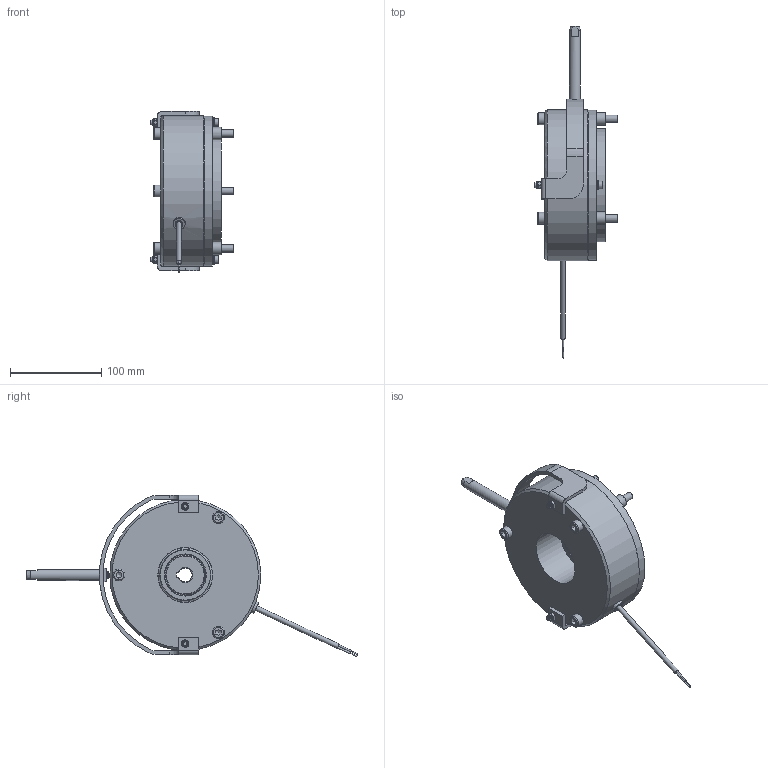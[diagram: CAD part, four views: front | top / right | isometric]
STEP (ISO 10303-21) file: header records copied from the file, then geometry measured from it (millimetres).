
FILE_DESCRIPTION(/* description */ (''),/* implementation_level */ '2;1');
FILE_NAME(/* name */ 'C:\SapWorkDir\Inventor\IP1\ConvertTempPath\5028678_IPT_000.ipt.stp',/* time_stamp */ '2020-09-16T16:31:06+02:00',/* author */ ('STRATE'),/* organization */ (''),/* preprocessor_version */ 'ST-DEVELOPER v17',/* originating_system */ 'Autodesk Inventor 2018',/* authorisation */ '');
FILE_SCHEMA (('AUTOMOTIVE_DESIGN { 1 0 10303 214 3 1 1 }'));
Length unit declared in the file: millimetre
Products named in the file (1): 5028678
Bounding box: 91.7 x 362.73 x 176.14 mm (x, y, z)
Volume: 925381.4 mm3; surface area: 226764.1 mm2
Topology: 4 solids, 4 shells, 583 faces, 1661 edges, 1129 vertices
Faces by surface type: cylinder 373, plane 138, cone 55, torus 14, bspline 3
Full cylindrical faces by diameter (mm): 1 x2, 1.85 x2, 4.917 x2, 5 x4, 5.3 x3, 5.5 x1, 6 x2, 6.6 x1, 6.7 x1, 6.8 x2, 7.3 x2, 7.5 x3, 8 x5, 8.2 x17, 8.4 x3, 8.5 x2, 9.2 x1, 10 x4, 12 x1, 13 x3, 13.2 x1, 13.8 x3, 14 x1, 14.5 x6, 60 x2, 79.5 x2, 80.1 x2, 89.5 x1, 124 x1, 164 x1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
Entity records: 22405 total; most frequent: CARTESIAN_POINT 6516, ORIENTED_EDGE 3286, DIRECTION 3129, EDGE_CURVE 1643, AXIS2_PLACEMENT_3D 1276, VERTEX_POINT 1129, CIRCLE 695, EDGE_LOOP 686
